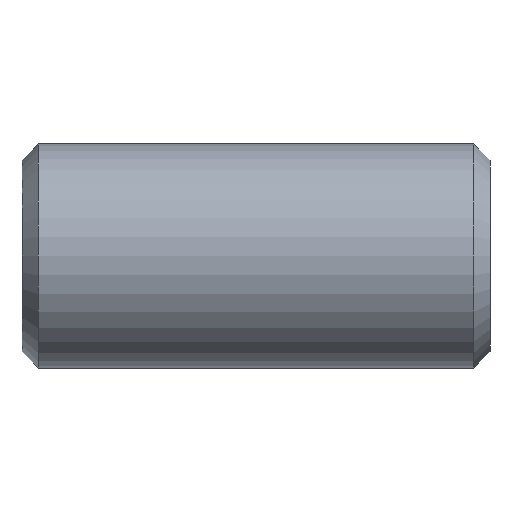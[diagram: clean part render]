
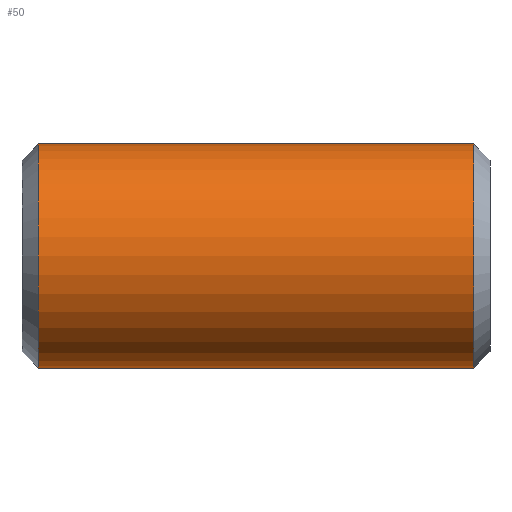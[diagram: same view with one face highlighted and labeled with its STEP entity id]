
A CAD part, left-side view. The second image highlights one B-rep face of the part: STEP entity #50.
In plain terms, the highlighted cylindrical face has radius 10.3 mm (diameter 20.6 mm), a full revolution.
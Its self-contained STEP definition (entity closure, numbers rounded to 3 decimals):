
#50=ADVANCED_FACE('',(#103,#105),#107,.T.);
#103=FACE_OUTER_BOUND('',#104,.T.);
#104=EDGE_LOOP('',(#192));
#105=FACE_OUTER_BOUND('',#106,.T.);
#106=EDGE_LOOP('',(#193));
#107=CYLINDRICAL_SURFACE('',#108,10.3);
#108=AXIS2_PLACEMENT_3D('',#109,#110,#111);
#109=CARTESIAN_POINT('',(0.,0.,0.));
#110=DIRECTION('',(0.,1.,0.));
#111=DIRECTION('',(-1.,0.,0.));
#192=ORIENTED_EDGE('',*,*,#238,.F.);
#193=ORIENTED_EDGE('',*,*,#239,.T.);
#238=EDGE_CURVE('',#284,#284,#285,.T.);
#239=EDGE_CURVE('',#286,#286,#287,.T.);
#284=VERTEX_POINT('',#390);
#285=CIRCLE('',#391,10.3);
#286=VERTEX_POINT('',#395);
#287=CIRCLE('',#396,10.3);
#390=CARTESIAN_POINT('',(-10.3,41.5,0.));
#391=AXIS2_PLACEMENT_3D('',#392,#393,#394);
#392=CARTESIAN_POINT('',(0.,41.5,0.));
#393=DIRECTION('',(0.,1.,0.));
#394=DIRECTION('',(-1.,0.,0.));
#395=CARTESIAN_POINT('',(-10.3,1.5,0.));
#396=AXIS2_PLACEMENT_3D('',#397,#398,#399);
#397=CARTESIAN_POINT('',(0.,1.5,0.));
#398=DIRECTION('',(0.,1.,0.));
#399=DIRECTION('',(-1.,0.,0.));
